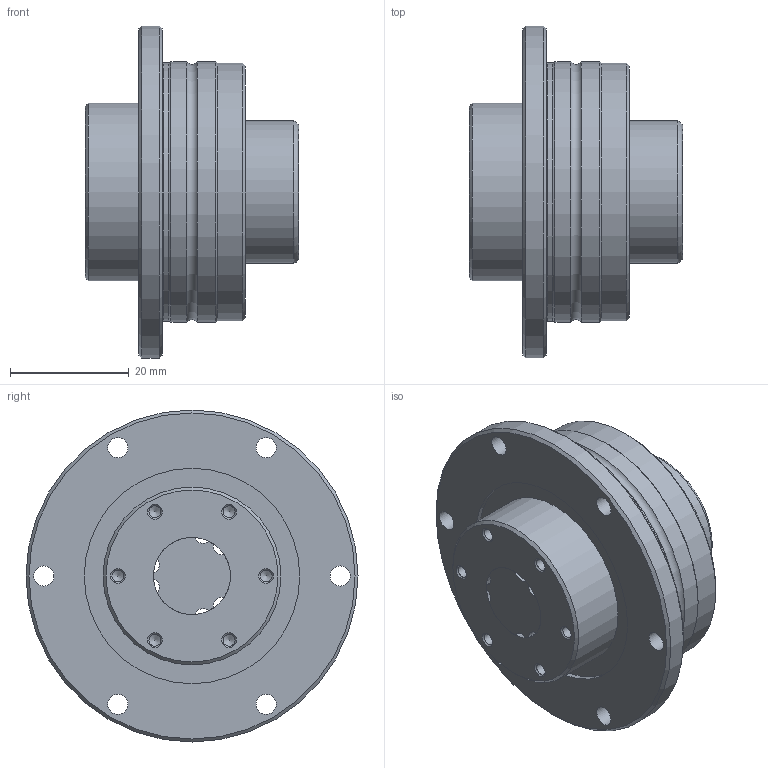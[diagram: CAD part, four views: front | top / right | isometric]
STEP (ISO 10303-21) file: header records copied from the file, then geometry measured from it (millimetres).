
FILE_DESCRIPTION(/* description */ ('STEP AP203'),/* implementation_level */ '2;1');
FILE_NAME(/* name */ 'LTR13A+36L(0_0)',/* time_stamp */ '2024-05-28T02:50:54+02:00',/* author */ ('License CC BY-ND 4.0'),/* organization */ ('CADENAS'),/* preprocessor_version */ 'ST-DEVELOPER v19.3',/* originating_system */ 'PARTsolutions',/* authorisation */ ' ');
FILE_SCHEMA (('CONFIG_CONTROL_DESIGN'));
Length unit declared in the file: millimetre
Products named in the file (3): LTR13A+36L(0,0); LTR 13A36 LTRA Shaft; LTR 13A LTRA ACyl
Assembly tree (3 placements, depth 2):
  LTR13A+36L(0,0)
    LTR 13A36 LTRA Shaft
    LTR 13A LTRA ACyl  x2
Bounding box: 36 x 56 x 56 mm (x, y, z)
Volume: 75051.9 mm3; surface area: 24027.5 mm2
Topology: 3 solids, 3 shells, 122 faces, 286 edges, 184 vertices
Faces by surface type: cylinder 60, cone 34, plane 20, torus 8
Full cylindrical faces by diameter (mm): 1 x2, 2.013 x12, 3.4 x12, 13 x2, 24 x2, 30 x2, 33 x2, 36.364 x2, 39.6 x2, 43.5 x2, 43.6 x2, 44 x4, 56 x2
Entity records: 1726 total; most frequent: DIRECTION 322, CARTESIAN_POINT 268, ORIENTED_EDGE 192, AXIS2_PLACEMENT_3D 155, FACE_BOUND 140, EDGE_LOOP 134, EDGE_CURVE 96, VERTEX_POINT 90
